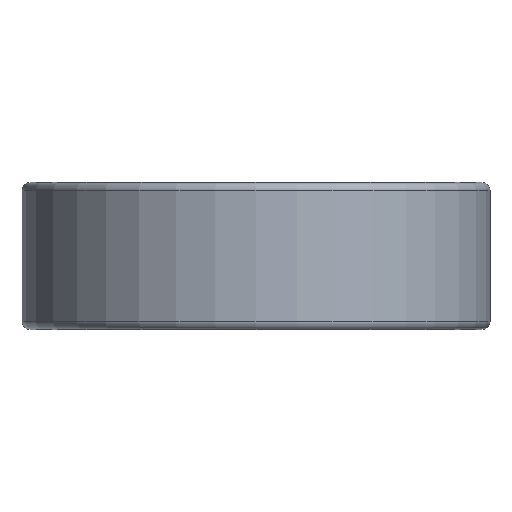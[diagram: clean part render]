
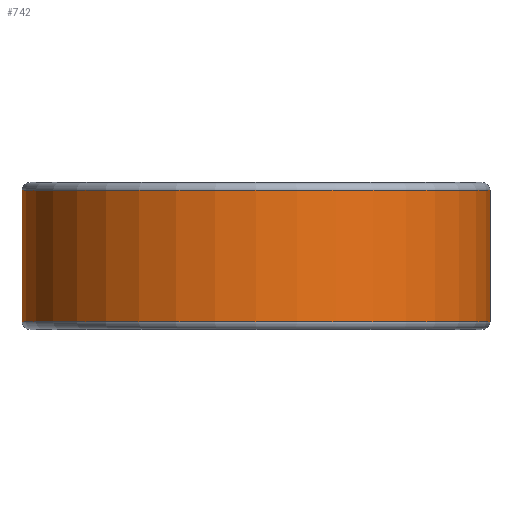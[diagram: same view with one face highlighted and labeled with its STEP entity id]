
A CAD part, front view. The second image highlights one B-rep face of the part: STEP entity #742.
In plain terms, the highlighted cylindrical face has radius 17.5 mm (diameter 35 mm), a full revolution.
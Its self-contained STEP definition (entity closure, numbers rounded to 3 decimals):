
#101=LINE('',#1121,#107);
#107=VECTOR('',#935,17.5);
#113=CYLINDRICAL_SURFACE('',#814,17.5);
#124=FACE_OUTER_BOUND('',#161,.T.);
#161=EDGE_LOOP('',(#501,#502,#503,#504,#505,#506));
#216=CIRCLE('',#810,17.5);
#217=CIRCLE('',#811,17.5);
#220=CIRCLE('',#815,17.5);
#221=CIRCLE('',#816,17.5);
#273=VERTEX_POINT('',#1110);
#274=VERTEX_POINT('',#1111);
#276=VERTEX_POINT('',#1118);
#277=VERTEX_POINT('',#1119);
#366=EDGE_CURVE('',#273,#274,#216,.T.);
#367=EDGE_CURVE('',#274,#273,#217,.T.);
#370=EDGE_CURVE('',#276,#277,#220,.T.);
#371=EDGE_CURVE('',#276,#274,#101,.T.);
#372=EDGE_CURVE('',#277,#276,#221,.T.);
#501=ORIENTED_EDGE('',*,*,#370,.F.);
#502=ORIENTED_EDGE('',*,*,#371,.T.);
#503=ORIENTED_EDGE('',*,*,#366,.F.);
#504=ORIENTED_EDGE('',*,*,#367,.F.);
#505=ORIENTED_EDGE('',*,*,#371,.F.);
#506=ORIENTED_EDGE('',*,*,#372,.F.);
#742=ADVANCED_FACE('',(#124),#113,.T.);
#810=AXIS2_PLACEMENT_3D('',#1112,#923,#924);
#811=AXIS2_PLACEMENT_3D('',#1113,#925,#926);
#814=AXIS2_PLACEMENT_3D('',#1117,#931,#932);
#815=AXIS2_PLACEMENT_3D('',#1120,#933,#934);
#816=AXIS2_PLACEMENT_3D('',#1122,#936,#937);
#923=DIRECTION('center_axis',(0.,0.,-1.));
#924=DIRECTION('ref_axis',(0.,-1.,0.));
#925=DIRECTION('center_axis',(0.,0.,-1.));
#926=DIRECTION('ref_axis',(0.,-1.,0.));
#931=DIRECTION('center_axis',(0.,0.,1.));
#932=DIRECTION('ref_axis',(0.,1.,0.));
#933=DIRECTION('center_axis',(0.,0.,1.));
#934=DIRECTION('ref_axis',(0.,-1.,0.));
#935=DIRECTION('',(0.,0.,-1.));
#936=DIRECTION('center_axis',(0.,0.,1.));
#937=DIRECTION('ref_axis',(0.,-1.,0.));
#1110=CARTESIAN_POINT('',(-17.5,0.,0.6));
#1111=CARTESIAN_POINT('',(0.,-17.5,0.6));
#1112=CARTESIAN_POINT('Origin',(0.,0.,0.6));
#1113=CARTESIAN_POINT('Origin',(0.,0.,0.6));
#1117=CARTESIAN_POINT('Origin',(0.,0.,5.5));
#1118=CARTESIAN_POINT('',(0.,-17.5,10.4));
#1119=CARTESIAN_POINT('',(-17.5,0.,10.4));
#1120=CARTESIAN_POINT('Origin',(0.,0.,10.4));
#1121=CARTESIAN_POINT('',(0.,-17.5,5.5));
#1122=CARTESIAN_POINT('Origin',(0.,0.,10.4));
